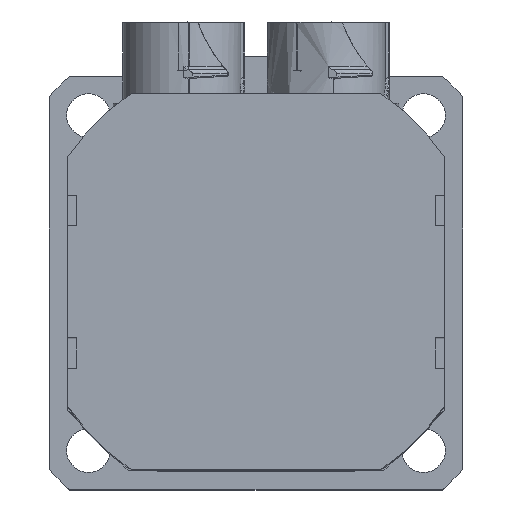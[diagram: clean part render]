
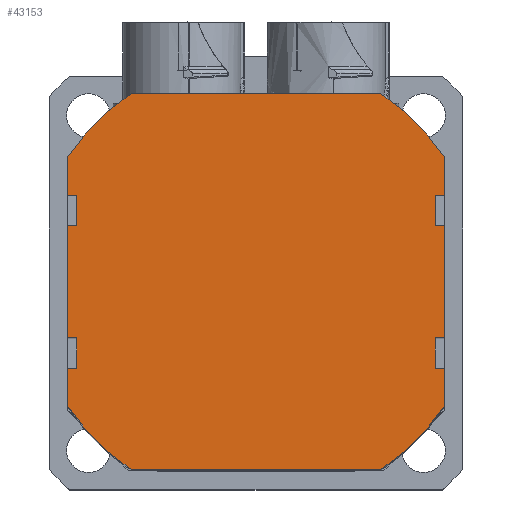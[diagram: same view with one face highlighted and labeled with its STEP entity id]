
A CAD part, top view. The second image highlights one B-rep face of the part: STEP entity #43153.
In plain terms, the highlighted planar face has unit normal (0, 0, 1).
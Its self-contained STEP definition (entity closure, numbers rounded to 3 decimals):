
#6802=LINE('',#55163,#50732);
#6803=LINE('',#55166,#50733);
#6804=LINE('',#55168,#50734);
#6805=LINE('',#55170,#50735);
#6806=LINE('',#55174,#50736);
#6807=LINE('',#55178,#50737);
#6808=LINE('',#55180,#50738);
#6809=LINE('',#55182,#50739);
#6810=LINE('',#55184,#50740);
#6811=LINE('',#55186,#50741);
#6812=LINE('',#55188,#50742);
#6813=LINE('',#55190,#50743);
#6814=LINE('',#55192,#50744);
#6815=LINE('',#55194,#50745);
#6816=LINE('',#55198,#50746);
#6817=LINE('',#55202,#50747);
#6818=LINE('',#55204,#50748);
#6819=LINE('',#55206,#50749);
#6820=LINE('',#55208,#50750);
#6821=LINE('',#55210,#50751);
#10860=VERTEX_POINT('',#55164);
#10861=VERTEX_POINT('',#55165);
#10862=VERTEX_POINT('',#55167);
#10863=VERTEX_POINT('',#55169);
#10864=VERTEX_POINT('',#55171);
#10865=VERTEX_POINT('',#55173);
#10866=VERTEX_POINT('',#55175);
#10867=VERTEX_POINT('',#55177);
#10868=VERTEX_POINT('',#55179);
#10869=VERTEX_POINT('',#55181);
#10870=VERTEX_POINT('',#55183);
#10871=VERTEX_POINT('',#55185);
#10872=VERTEX_POINT('',#55187);
#10873=VERTEX_POINT('',#55189);
#10874=VERTEX_POINT('',#55191);
#10875=VERTEX_POINT('',#55193);
#10876=VERTEX_POINT('',#55195);
#10877=VERTEX_POINT('',#55197);
#10878=VERTEX_POINT('',#55199);
#10879=VERTEX_POINT('',#55201);
#10880=VERTEX_POINT('',#55203);
#10881=VERTEX_POINT('',#55205);
#10882=VERTEX_POINT('',#55207);
#10883=VERTEX_POINT('',#55209);
#14923=CIRCLE('',#46399,30.);
#14924=CIRCLE('',#46400,30.);
#14925=CIRCLE('',#46401,30.);
#14926=CIRCLE('',#46402,30.);
#17133=EDGE_CURVE('',#10860,#10861,#6802,.T.);
#17134=EDGE_CURVE('',#10862,#10860,#6803,.T.);
#17135=EDGE_CURVE('',#10863,#10862,#6804,.T.);
#17136=EDGE_CURVE('',#10864,#10863,#6805,.T.);
#17137=EDGE_CURVE('',#10865,#10864,#14923,.T.);
#17138=EDGE_CURVE('',#10866,#10865,#6806,.T.);
#17139=EDGE_CURVE('',#10867,#10866,#14924,.T.);
#17140=EDGE_CURVE('',#10868,#10867,#6807,.T.);
#17141=EDGE_CURVE('',#10869,#10868,#6808,.T.);
#17142=EDGE_CURVE('',#10870,#10869,#6809,.T.);
#17143=EDGE_CURVE('',#10871,#10870,#6810,.T.);
#17144=EDGE_CURVE('',#10872,#10871,#6811,.T.);
#17145=EDGE_CURVE('',#10873,#10872,#6812,.T.);
#17146=EDGE_CURVE('',#10874,#10873,#6813,.T.);
#17147=EDGE_CURVE('',#10875,#10874,#6814,.T.);
#17148=EDGE_CURVE('',#10876,#10875,#6815,.T.);
#17149=EDGE_CURVE('',#10877,#10876,#14925,.T.);
#17150=EDGE_CURVE('',#10878,#10877,#6816,.T.);
#17151=EDGE_CURVE('',#10879,#10878,#14926,.T.);
#17152=EDGE_CURVE('',#10880,#10879,#6817,.T.);
#17153=EDGE_CURVE('',#10881,#10880,#6818,.T.);
#17154=EDGE_CURVE('',#10882,#10881,#6819,.T.);
#17155=EDGE_CURVE('',#10883,#10882,#6820,.T.);
#17156=EDGE_CURVE('',#10861,#10883,#6821,.T.);
#23894=ORIENTED_EDGE('',*,*,#17133,.F.);
#23895=ORIENTED_EDGE('',*,*,#17134,.F.);
#23896=ORIENTED_EDGE('',*,*,#17135,.F.);
#23897=ORIENTED_EDGE('',*,*,#17136,.F.);
#23898=ORIENTED_EDGE('',*,*,#17137,.F.);
#23899=ORIENTED_EDGE('',*,*,#17138,.F.);
#23900=ORIENTED_EDGE('',*,*,#17139,.F.);
#23901=ORIENTED_EDGE('',*,*,#17140,.F.);
#23902=ORIENTED_EDGE('',*,*,#17141,.F.);
#23903=ORIENTED_EDGE('',*,*,#17142,.F.);
#23904=ORIENTED_EDGE('',*,*,#17143,.F.);
#23905=ORIENTED_EDGE('',*,*,#17144,.F.);
#23906=ORIENTED_EDGE('',*,*,#17145,.F.);
#23907=ORIENTED_EDGE('',*,*,#17146,.F.);
#23908=ORIENTED_EDGE('',*,*,#17147,.F.);
#23909=ORIENTED_EDGE('',*,*,#17148,.F.);
#23910=ORIENTED_EDGE('',*,*,#17149,.F.);
#23911=ORIENTED_EDGE('',*,*,#17150,.F.);
#23912=ORIENTED_EDGE('',*,*,#17151,.F.);
#23913=ORIENTED_EDGE('',*,*,#17152,.F.);
#23914=ORIENTED_EDGE('',*,*,#17153,.F.);
#23915=ORIENTED_EDGE('',*,*,#17154,.F.);
#23916=ORIENTED_EDGE('',*,*,#17155,.F.);
#23917=ORIENTED_EDGE('',*,*,#17156,.F.);
#36589=EDGE_LOOP('',(#23894,#23895,#23896,#23897,#23898,#23899,#23900,#23901,
#23902,#23903,#23904,#23905,#23906,#23907,#23908,#23909,#23910,#23911,#23912,
#23913,#23914,#23915,#23916,#23917));
#39883=FACE_BOUND('',#36589,.T.);
#43153=ADVANCED_FACE('',(#39883),#53102,.T.);
#46398=AXIS2_PLACEMENT_3D('',#55162,#138831,$);
#46399=AXIS2_PLACEMENT_3D('',#55172,#138836,#138837);
#46400=AXIS2_PLACEMENT_3D('',#55176,#138839,#138840);
#46401=AXIS2_PLACEMENT_3D('',#55196,#138850,#138851);
#46402=AXIS2_PLACEMENT_3D('',#55200,#138853,#138854);
#50732=VECTOR('',#138832,1.);
#50733=VECTOR('',#138833,1.);
#50734=VECTOR('',#138834,1.);
#50735=VECTOR('',#138835,1.);
#50736=VECTOR('',#138838,1.);
#50737=VECTOR('',#138841,1.);
#50738=VECTOR('',#138842,1.);
#50739=VECTOR('',#138843,1.);
#50740=VECTOR('',#138844,1.);
#50741=VECTOR('',#138845,1.);
#50742=VECTOR('',#138846,1.);
#50743=VECTOR('',#138847,1.);
#50744=VECTOR('',#138848,1.);
#50745=VECTOR('',#138849,1.);
#50746=VECTOR('',#138852,1.);
#50747=VECTOR('',#138855,1.);
#50748=VECTOR('',#138856,1.);
#50749=VECTOR('',#138857,1.);
#50750=VECTOR('',#138858,1.);
#50751=VECTOR('',#138859,1.);
#53102=PLANE('',#46398);
#55162=CARTESIAN_POINT('',(0.,0.,57.5));
#55163=CARTESIAN_POINT('',(23.8,7.5,57.5));
#55164=CARTESIAN_POINT('',(23.8,7.5,57.5));
#55165=CARTESIAN_POINT('',(25.,7.5,57.5));
#55166=CARTESIAN_POINT('',(23.8,11.5,57.5));
#55167=CARTESIAN_POINT('',(23.8,11.5,57.5));
#55168=CARTESIAN_POINT('',(25.,11.5,57.5));
#55169=CARTESIAN_POINT('',(25.,11.5,57.5));
#55170=CARTESIAN_POINT('',(25.,16.583,57.5));
#55171=CARTESIAN_POINT('',(25.,16.583,57.5));
#55172=CARTESIAN_POINT('',(0.,0.,57.5));
#55173=CARTESIAN_POINT('',(16.583,25.,57.5));
#55174=CARTESIAN_POINT('',(-16.583,25.,57.5));
#55175=CARTESIAN_POINT('',(-16.583,25.,57.5));
#55176=CARTESIAN_POINT('',(0.,0.,57.5));
#55177=CARTESIAN_POINT('',(-25.,16.583,57.5));
#55178=CARTESIAN_POINT('',(-25.,11.5,57.5));
#55179=CARTESIAN_POINT('',(-25.,11.5,57.5));
#55180=CARTESIAN_POINT('',(-23.8,11.5,57.5));
#55181=CARTESIAN_POINT('',(-23.8,11.5,57.5));
#55182=CARTESIAN_POINT('',(-23.8,7.5,57.5));
#55183=CARTESIAN_POINT('',(-23.8,7.5,57.5));
#55184=CARTESIAN_POINT('',(-25.,7.5,57.5));
#55185=CARTESIAN_POINT('',(-25.,7.5,57.5));
#55186=CARTESIAN_POINT('',(-25.,-7.5,57.5));
#55187=CARTESIAN_POINT('',(-25.,-7.5,57.5));
#55188=CARTESIAN_POINT('',(-23.8,-7.5,57.5));
#55189=CARTESIAN_POINT('',(-23.8,-7.5,57.5));
#55190=CARTESIAN_POINT('',(-23.8,-11.5,57.5));
#55191=CARTESIAN_POINT('',(-23.8,-11.5,57.5));
#55192=CARTESIAN_POINT('',(-25.,-11.5,57.5));
#55193=CARTESIAN_POINT('',(-25.,-11.5,57.5));
#55194=CARTESIAN_POINT('',(-25.,-16.583,57.5));
#55195=CARTESIAN_POINT('',(-25.,-16.583,57.5));
#55196=CARTESIAN_POINT('',(0.,0.,57.5));
#55197=CARTESIAN_POINT('',(-16.583,-25.,57.5));
#55198=CARTESIAN_POINT('',(16.583,-25.,57.5));
#55199=CARTESIAN_POINT('',(16.583,-25.,57.5));
#55200=CARTESIAN_POINT('',(0.,0.,57.5));
#55201=CARTESIAN_POINT('',(25.,-16.583,57.5));
#55202=CARTESIAN_POINT('',(25.,-11.5,57.5));
#55203=CARTESIAN_POINT('',(25.,-11.5,57.5));
#55204=CARTESIAN_POINT('',(23.8,-11.5,57.5));
#55205=CARTESIAN_POINT('',(23.8,-11.5,57.5));
#55206=CARTESIAN_POINT('',(23.8,-7.5,57.5));
#55207=CARTESIAN_POINT('',(23.8,-7.5,57.5));
#55208=CARTESIAN_POINT('',(25.,-7.5,57.5));
#55209=CARTESIAN_POINT('',(25.,-7.5,57.5));
#55210=CARTESIAN_POINT('',(25.,7.5,57.5));
#138831=DIRECTION('',(0.,0.,1.));
#138832=DIRECTION('',(1.,0.,0.));
#138833=DIRECTION('',(0.,-1.,0.));
#138834=DIRECTION('',(-1.,0.,0.));
#138835=DIRECTION('',(0.,-1.,0.));
#138836=DIRECTION('',(0.,0.,-1.));
#138837=DIRECTION('',(30.,0.,0.));
#138838=DIRECTION('',(1.,0.,0.));
#138839=DIRECTION('',(0.,0.,-1.));
#138840=DIRECTION('',(30.,0.,0.));
#138841=DIRECTION('',(0.,1.,0.));
#138842=DIRECTION('',(-1.,0.,0.));
#138843=DIRECTION('',(0.,1.,0.));
#138844=DIRECTION('',(1.,0.,0.));
#138845=DIRECTION('',(0.,1.,0.));
#138846=DIRECTION('',(-1.,0.,0.));
#138847=DIRECTION('',(0.,1.,0.));
#138848=DIRECTION('',(1.,0.,0.));
#138849=DIRECTION('',(0.,1.,0.));
#138850=DIRECTION('',(0.,0.,-1.));
#138851=DIRECTION('',(30.,0.,0.));
#138852=DIRECTION('',(-1.,0.,0.));
#138853=DIRECTION('',(0.,0.,-1.));
#138854=DIRECTION('',(30.,0.,0.));
#138855=DIRECTION('',(0.,-1.,0.));
#138856=DIRECTION('',(1.,0.,0.));
#138857=DIRECTION('',(0.,-1.,0.));
#138858=DIRECTION('',(-1.,0.,0.));
#138859=DIRECTION('',(0.,-1.,0.));
